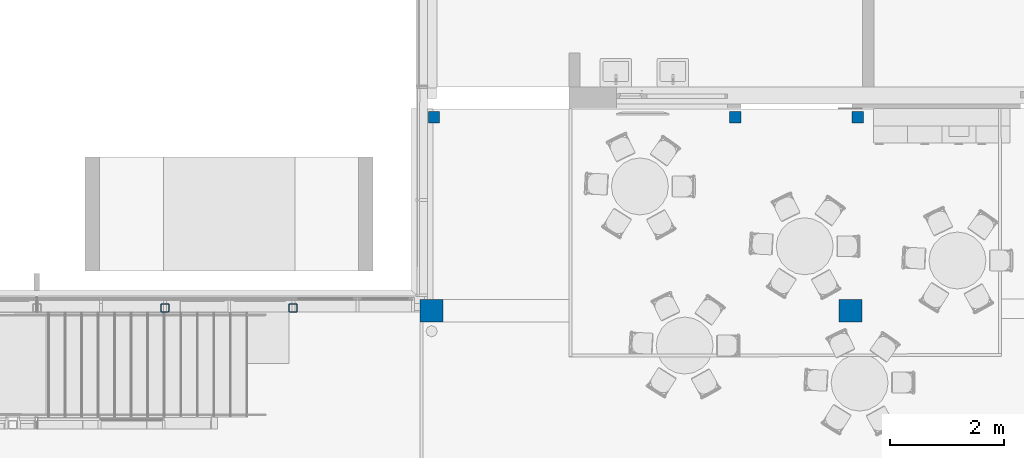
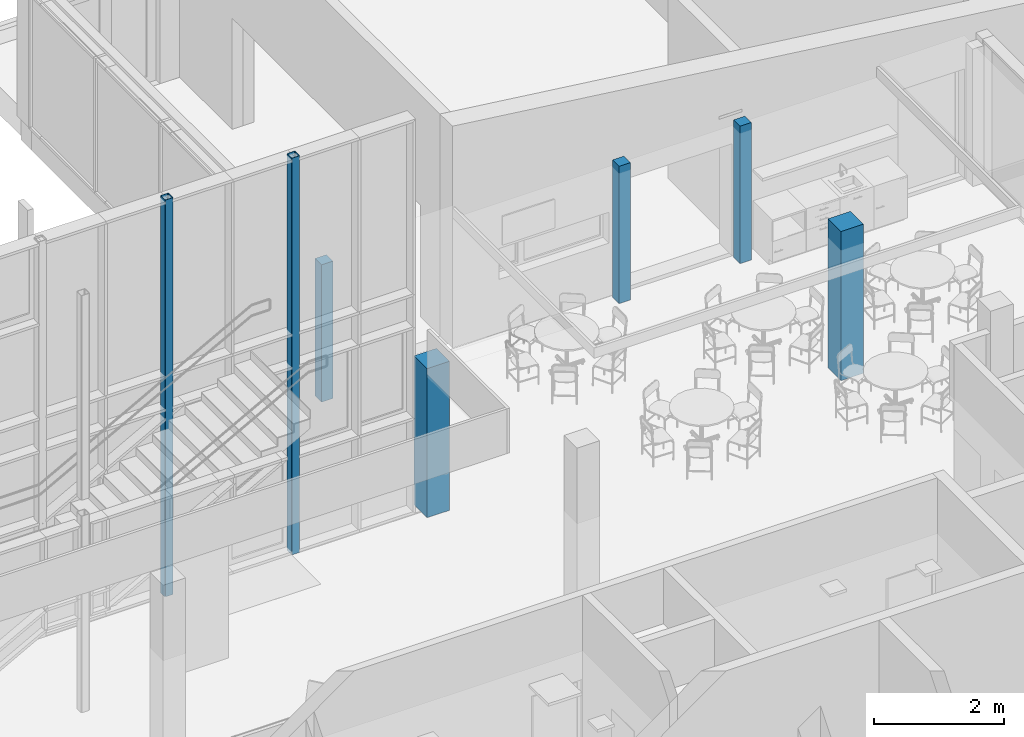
# One storey, part 16 of 301: 7 columns.
"""IFC2X3 building model written with IfcOpenShell, lengths in millimetres."""

import ifcopenshell
import ifcopenshell.guid

model = None  # the IFC model being written
_history = None  # IfcOwnerHistory: only IFC2X3 demands one
_inside = {}  # id of a spatial element -> (the spatial element, [elements in it])
_under = {}  # id of a project, library or spatial element -> (it, [spatial elements below it])
_declared = {}  # id of a project -> (the project, [libraries it declares])
_typed = {}  # id of a type object -> (the type object, [elements of that type])
_made_of = {}  # id of a material, layer set ... -> (it, [elements and type objects made of it])


def new_model(schema):
    """Start an empty IFC model of exactly this schema.

    Asked for "IFC4X3", IfcOpenShell would pick the latest addendum, in which some entities
    have other attributes; the version numbers below select the first issue.
    IFC2X3 requires an IfcOwnerHistory on every rooted entity: one is made here for all.
    """
    global model, _history
    if schema == "IFC4X3":
        model = ifcopenshell.file(schema_version=(4, 3, 0, 0))
    else:
        model = ifcopenshell.file(schema=schema)
    _inside.clear()
    _under.clear()
    _declared.clear()
    _typed.clear()
    _made_of.clear()
    _history = None
    if model.schema == "IFC2X3":
        org = make("IfcOrganization", Name="unknown")
        user = make(
            "IfcPersonAndOrganization",
            ThePerson=make("IfcPerson", FamilyName="unknown"),
            TheOrganization=org,
        )
        app = make(
            "IfcApplication",
            ApplicationDeveloper=org,
            Version="unknown",
            ApplicationFullName="unknown",
            ApplicationIdentifier="unknown",
        )
        _history = make(
            "IfcOwnerHistory",
            OwningUser=user,
            OwningApplication=app,
            ChangeAction="ADDED",
            CreationDate=0,
        )
    return model


def make(cls, **values):
    """One entity of the class cls with the attributes given. An attribute that is None is left unset."""
    return model.create_entity(
        cls, **{name: value for name, value in values.items() if value is not None}
    )


def entity(cls, *values):
    """Any entity or typed value of the class cls, its attributes in the order of the schema. None: left unset."""
    e = model.create_entity(cls)
    for i, value in enumerate(values):
        if value is not None:
            e[i] = value
    return e


def rooted(cls, **values):
    """An entity with a GlobalId (a new one), such as an element, a storey or a relation."""
    return make(cls, GlobalId=ifcopenshell.guid.new(), OwnerHistory=_history, **values)


def si_unit(unit_type, name, prefix=None):
    """IfcSIUnit, for example si_unit("LENGTHUNIT", "METRE", prefix="MILLI")."""
    return make("IfcSIUnit", UnitType=unit_type, Prefix=prefix, Name=name)


def converted_unit(unit_type, name, factor, base, dimensions=None, offset=None):
    """IfcConversionBasedUnit, such as the inch: factor (a typed value) times the base unit."""
    return make(
        "IfcConversionBasedUnit"
        if offset is None
        else "IfcConversionBasedUnitWithOffset",
        ConversionOffset=offset,
        Dimensions=None
        if dimensions is None
        else entity("IfcDimensionalExponents", *dimensions),
        UnitType=unit_type,
        Name=name,
        ConversionFactor=make(
            "IfcMeasureWithUnit", ValueComponent=factor, UnitComponent=base
        ),
    )


def derived_unit(unit_type, elements):
    """IfcDerivedUnit: a product of units, each with its exponent."""
    return make(
        "IfcDerivedUnit",
        Elements=[
            make("IfcDerivedUnitElement", Unit=unit, Exponent=power)
            for unit, power in elements
        ],
        UnitType=unit_type,
    )


def money_unit(currency):
    """IfcMonetaryUnit."""
    return make("IfcMonetaryUnit", Currency=currency)


def assignment(units):
    """IfcUnitAssignment: the units of a project."""
    return None if units is None else make("IfcUnitAssignment", Units=units)


def point(xyz):
    """IfcCartesianPoint."""
    return None if xyz is None else make("IfcCartesianPoint", Coordinates=xyz)


def direction(xyz):
    """IfcDirection."""
    return None if xyz is None else make("IfcDirection", DirectionRatios=xyz)


def frame(location, z_axis=None, x_axis=None):
    """IfcAxis2Placement3D, a coordinate frame: its origin and axes. An axis left out is left unset."""
    return make(
        "IfcAxis2Placement3D",
        Location=point(location),
        Axis=direction(z_axis),
        RefDirection=direction(x_axis),
    )


def origin_with_axes():
    """The frame at (0, 0, 0) with the z axis (0, 0, 1) and the x axis (1, 0, 0) written out."""
    return frame((0.0, 0.0, 0.0), z_axis=(0.0, 0.0, 1.0), x_axis=(1.0, 0.0, 0.0))


def place(relative_to, where):
    """IfcLocalPlacement: puts the frame where relative to a parent placement (None: the world)."""
    return make(
        "IfcLocalPlacement", PlacementRelTo=relative_to, RelativePlacement=where
    )


def context(
    kind, dimensions, precision=None, world=None, true_north=None, identifier=None
):
    """IfcGeometricRepresentationContext, for example the 3D "Model" context."""
    return make(
        "IfcGeometricRepresentationContext",
        ContextIdentifier=identifier,
        ContextType=kind,
        CoordinateSpaceDimension=dimensions,
        Precision=precision,
        WorldCoordinateSystem=world,
        TrueNorth=true_north,
    )


def subcontext(parent, identifier, kind, view, scale=None):
    """IfcGeometricRepresentationSubContext, for example "Body" below "Model"."""
    return make(
        "IfcGeometricRepresentationSubContext",
        ContextIdentifier=identifier,
        ContextType=kind,
        ParentContext=parent,
        TargetScale=scale,
        TargetView=view,
    )


def project(units=None, contexts=None):
    """IfcProject with its units and contexts."""
    return rooted(
        "IfcProject",
        Name="project",
        RepresentationContexts=contexts,
        UnitsInContext=assignment(units),
    )


def spatial(cls, under=None, at=None, **own):
    """A site, building, storey or space (cls), placed at a placement, below another one or the project."""
    s = rooted(cls, ObjectPlacement=at, **own)
    if under is not None:
        _under.setdefault(under.id(), (under, []))[1].append(s)
    return s


def faces_of(points, faces, orient=None, outer=None):
    """IfcFace entities. A face is a list of loops; a loop is a list of indices into points, from 0.

    orient and outer hold one flag for each loop. By default every Orientation is true, the
    first loop of a face is its IfcFaceOuterBound and the others are IfcFaceBound.
    """
    made = []
    for i, loops in enumerate(faces):
        bounds = []
        for j, loop in enumerate(loops):
            is_outer = j == 0 if outer is None else outer[i][j]
            bounds.append(
                make(
                    "IfcFaceOuterBound" if is_outer else "IfcFaceBound",
                    Bound=make("IfcPolyLoop", Polygon=[points[k] for k in loop]),
                    Orientation=True if orient is None else orient[i][j],
                )
            )
        made.append(make("IfcFace", Bounds=bounds))
    return made


def faceted_brep(points, faces, orient=None, outer=None, voids=None):
    """IfcFacetedBrep: a solid bounded by flat faces; with voids (closed shells), ...WithVoids."""
    shared = [point(p) for p in points]
    hull = make("IfcClosedShell", CfsFaces=faces_of(shared, faces, orient, outer))
    if voids is None:
        return make("IfcFacetedBrep", Outer=hull)
    return make(
        "IfcFacetedBrepWithVoids",
        Outer=hull,
        Voids=[
            make(cls, CfsFaces=faces_of(shared, fs, o, b)) for cls, fs, o, b in voids
        ],
    )


def shape(context_of_items, identifier, shape_type, items):
    """IfcShapeRepresentation: the items that make up one representation, for example the "Body"."""
    return make(
        "IfcShapeRepresentation",
        ContextOfItems=context_of_items,
        RepresentationIdentifier=identifier,
        RepresentationType=shape_type,
        Items=items,
    )


def material(Name=None, Category=None):
    """IfcMaterial."""
    return make("IfcMaterial", Name=Name, Category=Category)


def made_of(thing, what):
    """Note that an element or type object is made of a material, layer set ...; save() writes the relation."""
    if what is not None:
        _made_of.setdefault(what.id(), (what, []))[1].append(thing)
    return thing


def type_object(cls, material=None, **own):
    """A type object (cls), such as IfcWallType, which elements share."""
    return made_of(rooted(cls, **own), material)


def element(
    cls,
    number,
    at=None,
    inside=None,
    cuts=None,
    type_object=None,
    material=None,
    context=None,
    identifier="Body",
    shape_type=None,
    held_by="IfcProductDefinitionShape",
    body=None,
    shapes=None,
    **own,
):
    """One element of the class cls, such as IfcWall. Its Tag is "e" and its number.

    at: its placement. inside: the storey or other place that contains it. cuts: it is an
    opening in that element (IfcRelVoidsElement). A single representation is given by context,
    identifier, shape_type and body (its items); several are given by shapes. held_by: the class
    of the entity that holds the representations. save() writes the other relations.
    """
    e = rooted(cls, Tag="e%d" % number, ObjectPlacement=at, **own)
    if body is not None:
        shapes = [shape(context, identifier, shape_type, body)]
    if shapes is not None:
        e.Representation = make(held_by, Representations=shapes)
    if inside is not None:
        _inside.setdefault(inside.id(), (inside, []))[1].append(e)
    if cuts is not None:
        rooted(
            "IfcRelVoidsElement", RelatingBuildingElement=cuts, RelatedOpeningElement=e
        )
    if type_object is not None:
        _typed.setdefault(type_object.id(), (type_object, []))[1].append(e)
    return made_of(e, material)


def aggregate(whole, parts):
    """IfcRelAggregates: a whole, such as a stair, and the parts it consists of."""
    return rooted("IfcRelAggregates", RelatingObject=whole, RelatedObjects=parts)


def save(model, path):
    """Write the relations noted so far, then the file.

    IfcRelAggregates (storeys below a building ...), IfcRelContainedInSpatialStructure (elements
    in a storey), IfcRelDefinesByType, IfcRelAssociatesMaterial and IfcRelDeclares: one each for
    every whole, place, type object, material and project.
    """
    for whole, parts in _under.values():
        aggregate(whole, parts)
    for where, things in _inside.values():
        rooted(
            "IfcRelContainedInSpatialStructure",
            RelatedElements=things,
            RelatingStructure=where,
        )
    for kind, things in _typed.values():
        rooted("IfcRelDefinesByType", RelatedObjects=things, RelatingType=kind)
    for what, things in _made_of.values():
        rooted("IfcRelAssociatesMaterial", RelatedObjects=things, RelatingMaterial=what)
    for by, libraries in _declared.values():
        rooted("IfcRelDeclares", RelatingContext=by, RelatedDefinitions=libraries)
    model.write(path)


model = new_model("IFC2X3")

# Units and contexts
model_context = context("Model", 3, precision=0.01, world=origin_with_axes(), true_north=direction((0.0, 1.0)))
body_context = subcontext(model_context, "Body", "Model", "MODEL_VIEW")
ifc_project = project(units=[si_unit("LENGTHUNIT", "METRE", prefix="MILLI"), si_unit("AREAUNIT", "SQUARE_METRE"), si_unit("VOLUMEUNIT", "CUBIC_METRE"), converted_unit("PLANEANGLEUNIT", "DEGREE", entity("IfcPlaneAngleMeasure", 0.0174532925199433), si_unit("PLANEANGLEUNIT", "RADIAN"), dimensions=[0, 0, 0, 0, 0, 0, 0]), money_unit("EUR"), converted_unit("TIMEUNIT", "Year", entity("IfcTimeMeasure", 31557600.0), si_unit("TIMEUNIT", "SECOND"), dimensions=[0, 0, 1, 0, 0, 0, 0]), si_unit("MASSUNIT", "GRAM", prefix="KILO"), si_unit("THERMODYNAMICTEMPERATUREUNIT", "DEGREE_CELSIUS"), si_unit("LUMINOUSINTENSITYUNIT", "LUMEN"), si_unit("ENERGYUNIT", "JOULE", prefix="MEGA"), derived_unit("THERMALCONDUCTANCEUNIT", [(si_unit("POWERUNIT", "WATT"), 1), (si_unit("LENGTHUNIT", "METRE"), -1), (si_unit("THERMODYNAMICTEMPERATUREUNIT", "KELVIN"), -1)]), derived_unit("SPECIFICHEATCAPACITYUNIT", [(si_unit("ENERGYUNIT", "JOULE"), 1), (si_unit("MASSUNIT", "GRAM", prefix="KILO"), -1), (si_unit("THERMODYNAMICTEMPERATUREUNIT", "KELVIN"), -1)]), derived_unit("MASSDENSITYUNIT", [(si_unit("MASSUNIT", "GRAM", prefix="KILO"), 1), (si_unit("VOLUMEUNIT", "CUBIC_METRE"), -1)])], contexts=[model_context])

# Site, building, storey
site_placement = place(None, frame((0.0, 0.0, 8650.0), z_axis=(0.0, 0.0, 1.0), x_axis=(1.0, 0.0, 0.0)))
site = spatial("IfcSite", under=ifc_project, at=site_placement, Name="43301:001:0844", CompositionType="ELEMENT")
building_placement = place(site_placement, origin_with_axes())
building = spatial("IfcBuilding", under=site, at=building_placement, Name="Kuressaare Ametikooli tuulikute mehaanikute õppekorpus", CompositionType="ELEMENT")
storey_placement = place(building_placement, origin_with_axes())
storey = spatial("IfcBuildingStorey", under=building, at=storey_placement, Name="1.korrus", CompositionType="ELEMENT", Elevation=0.0)

# Columns
ifc_material_1 = material(Name="Puit - Liimpuit")
column_type_1 = type_object("IfcColumnType", Name="Puit - Liimpuit 400 x 400", PredefinedType="NOTDEFINED")
for number, where, z_axis, x_axis in (
    (1, (125918.0683571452, 28384.06892395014, 0.0), (0.0, 0.0, 1.0), (1.0, 0.0, 0.0)),
    (2, (118567.946571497, 28384.06892395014, 0.0), (0.0, 0.0, 1.0), (1.0, 0.0, 0.0)),
):
    element("IfcColumn", number, at=place(storey_placement, frame(where, z_axis=z_axis, x_axis=x_axis)), inside=storey, type_object=column_type_1, material=ifc_material_1, context=body_context, shape_type="Brep", body=[
        faceted_brep([(-200.0000000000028, -199.9999999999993, 2800.0), (-200.0000000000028, -199.9999999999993, 0.0), (200.0000000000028, -199.9999999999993, 0.0), (200.0000000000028, -199.9999999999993, 2800.0), (-200.0000000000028, 199.9999999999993, 2800.0), (-200.0000000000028, 199.9999999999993, 0.0), (200.0000000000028, 199.9999999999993, 0.0), (200.0000000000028, 199.9999999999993, 2800.0)], [[[0, 1, 2, 3]], [[4, 5, 1, 0]], [[2, 1, 5, 6]], [[3, 2, 6, 7]], [[4, 0, 3, 7]], [[7, 6, 5, 4]]]),
    ])
ifc_material_2 = material(Name="Metall - Teras")
column_type_2 = type_object("IfcColumnType", Name="Metall - Teras 200 x 200", PredefinedType="NOTDEFINED")
for number, where, z_axis, x_axis in (
    (3, (123896.1576512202, 31778.83706955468, 0.0), (0.0, 0.0, 1.0), (1.0, 0.0, 0.0)),
    (4, (118609.1020079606, 31778.82728576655, 0.0), (0.0, 0.0, 1.0), (1.0, 0.0, 0.0)),
):
    element("IfcColumn", number, at=place(storey_placement, frame(where, z_axis=z_axis, x_axis=x_axis)), inside=storey, type_object=column_type_2, material=ifc_material_2, context=body_context, shape_type="Brep", body=[
        faceted_brep([(-99.99999999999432, -99.99999999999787, 2579.999999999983), (-99.99999999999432, -99.99999999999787, 0.0), (99.99999999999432, -99.99999999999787, 0.0), (99.99999999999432, -99.99999999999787, 2579.999999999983), (-99.99999999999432, 100.0000000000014, 2579.999999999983), (-99.99999999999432, 100.0000000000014, 0.0), (99.99999999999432, 100.0000000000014, 0.0), (99.99999999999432, 100.0000000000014, 2579.999999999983)], [[[0, 1, 2, 3]], [[4, 5, 1, 0]], [[2, 1, 5, 6]], [[3, 2, 6, 7]], [[4, 0, 3, 7]], [[7, 6, 5, 4]]]),
    ])
column_1_placement = place(storey_placement, frame((126043.2310410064, 31778.83706955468, 0.0), z_axis=(0.0, 0.0, 1.0), x_axis=(1.0, 0.0, 0.0)))
element("IfcColumn", 5, at=column_1_placement, inside=storey, type_object=column_type_2, material=ifc_material_2, context=body_context, shape_type="Brep", body=[
    faceted_brep([(-99.99999999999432, -99.99999999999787, 2579.999999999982), (-99.99999999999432, -99.99999999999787, 0.0), (99.99999999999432, -99.99999999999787, 0.0), (99.99999999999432, -99.99999999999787, 2579.999999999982), (-99.99999999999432, 100.0000000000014, 2579.999999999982), (-99.99999999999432, 100.0000000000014, 0.0), (99.99999999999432, 100.0000000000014, 0.0), (99.99999999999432, 100.0000000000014, 2579.999999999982)], [[[0, 1, 2, 3]], [[4, 5, 1, 0]], [[2, 1, 5, 6]], [[3, 2, 6, 7]], [[4, 0, 3, 7]], [[7, 6, 5, 4]]]),
])
ifc_material_3 = material(Name="STEEL/S355")
column_type_3 = type_object("IfcColumnType", Name="RHS150*8 150 x 150", PredefinedType="NOTDEFINED")
column_2_placement = place(storey_placement, frame((116137.097387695, 28434.56806945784, 0.0), z_axis=(0.0, 0.0, 1.0), x_axis=(-1.0, 0.0, 0.0)))
element("IfcColumn", 6, at=column_2_placement, inside=storey, type_object=column_type_3, material=ifc_material_3, Name="POST", context=body_context, shape_type="Brep", body=[
    faceted_brep([(-64.99999999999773, 72.32050807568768, 7449.999999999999), (-55.00000000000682, 74.99999999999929, 7449.999999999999), (-55.00000000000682, 74.99999999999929, 0.0), (-64.99999999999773, 72.32050807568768, 0.0), (64.99999999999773, 72.32050807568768, 7449.999999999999), (55.00000000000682, 74.99999999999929, 7449.999999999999), (-72.32050807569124, 65.00000000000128, 7449.999999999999), (-75.00000000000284, 54.99999999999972, 7449.999999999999), (-75.00000000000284, -54.99999999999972, 7449.999999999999), (-72.32050807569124, -65.00000000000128, 7449.999999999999), (-64.99999999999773, -72.32050807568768, 7449.999999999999), (-55.00000000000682, -74.99999999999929, 7449.999999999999), (55.00000000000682, -74.99999999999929, 7449.999999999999), (64.99999999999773, -72.32050807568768, 7449.999999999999), (72.32050807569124, -65.00000000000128, 7449.999999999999), (75.00000000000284, -54.99999999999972, 7449.999999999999), (75.00000000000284, 54.99999999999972, 7449.999999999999), (72.32050807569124, 65.00000000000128, 7449.999999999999), (-55.00000000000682, 67.00000000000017, 7449.999999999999), (55.00000000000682, 67.00000000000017, 7449.999999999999), (63.48528137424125, 63.4852813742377, 7449.999999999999), (66.99999999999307, 54.99999999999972, 7449.999999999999), (66.99999999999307, -54.99999999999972, 7449.999999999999), (63.48528137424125, -63.4852813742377, 7449.999999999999), (55.00000000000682, -67.00000000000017, 7449.999999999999), (-55.00000000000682, -67.00000000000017, 7449.999999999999), (-63.48528137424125, -63.4852813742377, 7449.999999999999), (-66.99999999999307, -54.99999999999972, 7449.999999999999), (-66.99999999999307, 54.99999999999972, 7449.999999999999), (-63.48528137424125, 63.4852813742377, 7449.999999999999), (55.00000000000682, 74.99999999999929, 0.0), (-72.32050807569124, 65.00000000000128, 0.0), (64.99999999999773, 72.32050807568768, 0.0), (72.32050807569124, 65.00000000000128, 0.0), (75.00000000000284, 54.99999999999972, 0.0), (75.00000000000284, -54.99999999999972, 0.0), (72.32050807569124, -65.00000000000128, 0.0), (64.99999999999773, -72.32050807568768, 0.0), (55.00000000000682, -74.99999999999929, 0.0), (-55.00000000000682, -74.99999999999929, 0.0), (-64.99999999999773, -72.32050807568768, 0.0), (-72.32050807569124, -65.00000000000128, 0.0), (-75.00000000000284, -54.99999999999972, 0.0), (-75.00000000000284, 54.99999999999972, 0.0), (66.99999999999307, -54.99999999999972, 0.0), (66.99999999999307, 54.99999999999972, 0.0), (63.48528137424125, 63.4852813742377, 0.0), (55.00000000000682, 67.00000000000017, 0.0), (-55.00000000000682, 67.00000000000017, 0.0), (-63.48528137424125, 63.4852813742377, 0.0), (-66.99999999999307, 54.99999999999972, 0.0), (-66.99999999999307, -54.99999999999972, 0.0), (-63.48528137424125, -63.4852813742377, 0.0), (-55.00000000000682, -67.00000000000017, 0.0), (55.00000000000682, -67.00000000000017, 0.0), (63.48528137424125, -63.4852813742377, 0.0)], [[[0, 1, 2, 3]], [[4, 5, 1, 0, 6, 7, 8, 9, 10, 11, 12, 13, 14, 15, 16, 17], [18, 19, 20, 21, 22, 23, 24, 25, 26, 27, 28, 29]], [[1, 5, 30, 2]], [[31, 3, 2, 30, 32, 33, 34, 35, 36, 37, 38, 39, 40, 41, 42, 43], [44, 45, 46, 47, 48, 49, 50, 51, 52, 53, 54, 55]], [[6, 0, 3, 31]], [[5, 4, 32, 30]], [[7, 6, 31, 43]], [[8, 7, 43, 42]], [[9, 8, 42, 41]], [[10, 9, 41, 40]], [[11, 10, 40, 39]], [[12, 11, 39, 38]], [[13, 12, 38, 37]], [[14, 13, 37, 36]], [[15, 14, 36, 35]], [[16, 15, 35, 34]], [[17, 16, 34, 33]], [[4, 17, 33, 32]], [[19, 18, 48, 47]], [[20, 19, 47, 46]], [[21, 20, 46, 45]], [[22, 21, 45, 44]], [[23, 22, 44, 55]], [[24, 23, 55, 54]], [[25, 24, 54, 53]], [[26, 25, 53, 52]], [[27, 26, 52, 51]], [[28, 27, 51, 50]], [[29, 28, 50, 49]], [[18, 29, 49, 48]]]),
])
column_3_placement = place(storey_placement, frame((113887.097387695, 28434.56806945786, 0.0), z_axis=(0.0, 0.0, 1.0), x_axis=(-1.0, 0.0, 0.0)))
element("IfcColumn", 7, at=column_3_placement, inside=storey, type_object=column_type_3, material=ifc_material_3, Name="POST", context=body_context, shape_type="Brep", body=[
    faceted_brep([(-64.99999999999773, 72.32050807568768, 7449.999999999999), (-55.00000000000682, 74.99999999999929, 7449.999999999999), (-55.00000000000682, 74.99999999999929, 0.0), (-64.99999999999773, 72.32050807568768, 0.0), (64.99999999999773, 72.32050807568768, 7449.999999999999), (55.00000000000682, 74.99999999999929, 7449.999999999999), (-72.32050807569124, 65.00000000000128, 7449.999999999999), (-75.00000000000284, 54.99999999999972, 7449.999999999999), (-75.00000000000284, -54.99999999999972, 7449.999999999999), (-72.32050807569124, -65.00000000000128, 7449.999999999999), (-64.99999999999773, -72.32050807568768, 7449.999999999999), (-55.00000000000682, -74.99999999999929, 7449.999999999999), (55.00000000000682, -74.99999999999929, 7449.999999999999), (64.99999999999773, -72.32050807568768, 7449.999999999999), (72.32050807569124, -65.00000000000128, 7449.999999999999), (75.00000000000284, -54.99999999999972, 7449.999999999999), (75.00000000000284, 54.99999999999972, 7449.999999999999), (72.32050807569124, 65.00000000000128, 7449.999999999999), (-55.00000000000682, 67.00000000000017, 7449.999999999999), (55.00000000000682, 67.00000000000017, 7449.999999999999), (63.48528137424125, 63.4852813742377, 7449.999999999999), (66.99999999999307, 54.99999999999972, 7449.999999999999), (66.99999999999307, -54.99999999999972, 7449.999999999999), (63.48528137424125, -63.4852813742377, 7449.999999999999), (55.00000000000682, -67.00000000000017, 7449.999999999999), (-55.00000000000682, -67.00000000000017, 7449.999999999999), (-63.48528137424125, -63.4852813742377, 7449.999999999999), (-66.99999999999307, -54.99999999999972, 7449.999999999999), (-66.99999999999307, 54.99999999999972, 7449.999999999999), (-63.48528137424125, 63.4852813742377, 7449.999999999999), (55.00000000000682, 74.99999999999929, 0.0), (-72.32050807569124, 65.00000000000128, 0.0), (64.99999999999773, 72.32050807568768, 0.0), (72.32050807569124, 65.00000000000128, 0.0), (75.00000000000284, 54.99999999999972, 0.0), (75.00000000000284, -54.99999999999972, 0.0), (72.32050807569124, -65.00000000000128, 0.0), (64.99999999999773, -72.32050807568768, 0.0), (55.00000000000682, -74.99999999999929, 0.0), (-55.00000000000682, -74.99999999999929, 0.0), (-64.99999999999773, -72.32050807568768, 0.0), (-72.32050807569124, -65.00000000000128, 0.0), (-75.00000000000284, -54.99999999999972, 0.0), (-75.00000000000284, 54.99999999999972, 0.0), (66.99999999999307, -54.99999999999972, 0.0), (66.99999999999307, 54.99999999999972, 0.0), (63.48528137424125, 63.4852813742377, 0.0), (55.00000000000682, 67.00000000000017, 0.0), (-55.00000000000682, 67.00000000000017, 0.0), (-63.48528137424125, 63.4852813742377, 0.0), (-66.99999999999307, 54.99999999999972, 0.0), (-66.99999999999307, -54.99999999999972, 0.0), (-63.48528137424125, -63.4852813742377, 0.0), (-55.00000000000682, -67.00000000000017, 0.0), (55.00000000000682, -67.00000000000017, 0.0), (63.48528137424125, -63.4852813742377, 0.0)], [[[0, 1, 2, 3]], [[4, 5, 1, 0, 6, 7, 8, 9, 10, 11, 12, 13, 14, 15, 16, 17], [18, 19, 20, 21, 22, 23, 24, 25, 26, 27, 28, 29]], [[1, 5, 30, 2]], [[31, 3, 2, 30, 32, 33, 34, 35, 36, 37, 38, 39, 40, 41, 42, 43], [44, 45, 46, 47, 48, 49, 50, 51, 52, 53, 54, 55]], [[6, 0, 3, 31]], [[5, 4, 32, 30]], [[7, 6, 31, 43]], [[8, 7, 43, 42]], [[9, 8, 42, 41]], [[10, 9, 41, 40]], [[11, 10, 40, 39]], [[12, 11, 39, 38]], [[13, 12, 38, 37]], [[14, 13, 37, 36]], [[15, 14, 36, 35]], [[16, 15, 35, 34]], [[17, 16, 34, 33]], [[4, 17, 33, 32]], [[19, 18, 48, 47]], [[20, 19, 47, 46]], [[21, 20, 46, 45]], [[22, 21, 45, 44]], [[23, 22, 44, 55]], [[24, 23, 55, 54]], [[25, 24, 54, 53]], [[26, 25, 53, 52]], [[27, 26, 52, 51]], [[28, 27, 51, 50]], [[29, 28, 50, 49]], [[18, 29, 49, 48]]]),
])

save(model, "model.ifc")
